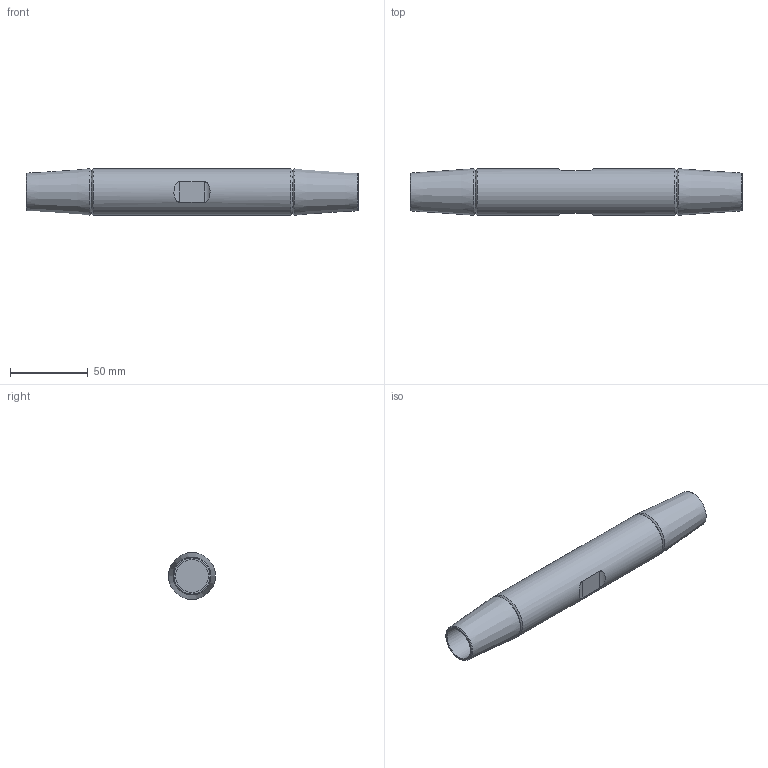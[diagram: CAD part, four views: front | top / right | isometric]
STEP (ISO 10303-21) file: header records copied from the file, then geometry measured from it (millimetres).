
FILE_DESCRIPTION(/* description */ (''),/* implementation_level */ '2;1');
FILE_NAME(/* name */ 'G:\Engineering\700 CAD\Internet-PX-1-step-igs-dxf\520-MUF-Arbeitsdateien\520-020-MUF.stp',/* time_stamp */ '2020-06-30T13:13:00+02:00',/* author */ ('schwarz'),/* organization */ (''),/* preprocessor_version */ 'ST-DEVELOPER v16.1',/* originating_system */ 'Autodesk Inventor 2016',/* authorisation */ '');
FILE_SCHEMA (('AUTOMOTIVE_DESIGN { 1 0 10303 214 3 1 1 }'));
Length unit declared in the file: centimetre
Products named in the file (1): Zusammenbau Muffe 520 020 Kunde
Bounding box: 213 x 30 x 30 mm (x, y, z)
Volume: 116785.2 mm3; surface area: 24535.5 mm2
Topology: 1 solids, 1 shells, 21 faces, 42 edges, 26 vertices
Faces by surface type: cone 8, cylinder 7, plane 6
Full cylindrical faces by diameter (mm): 21 x2, 30 x1
Entity records: 613 total; most frequent: CARTESIAN_POINT 166, DIRECTION 80, ORIENTED_EDGE 60, EDGE_LOOP 36, AXIS2_PLACEMENT_3D 36, EDGE_CURVE 30, VERTEX_POINT 26, STYLED_ITEM 22
